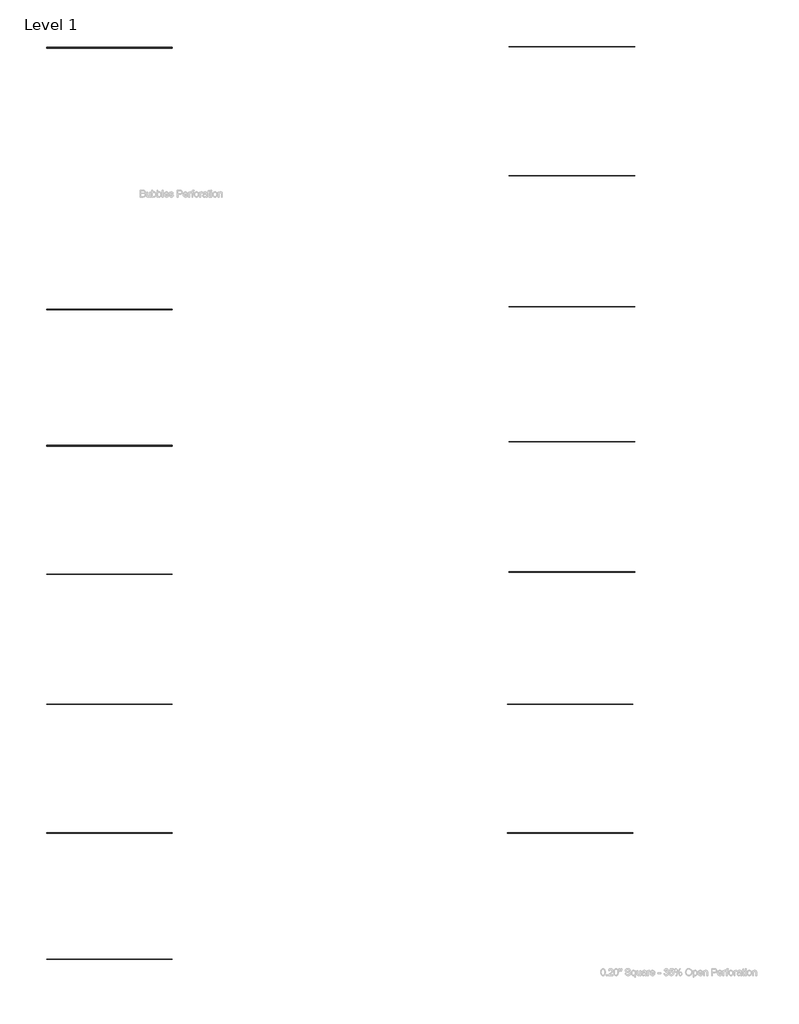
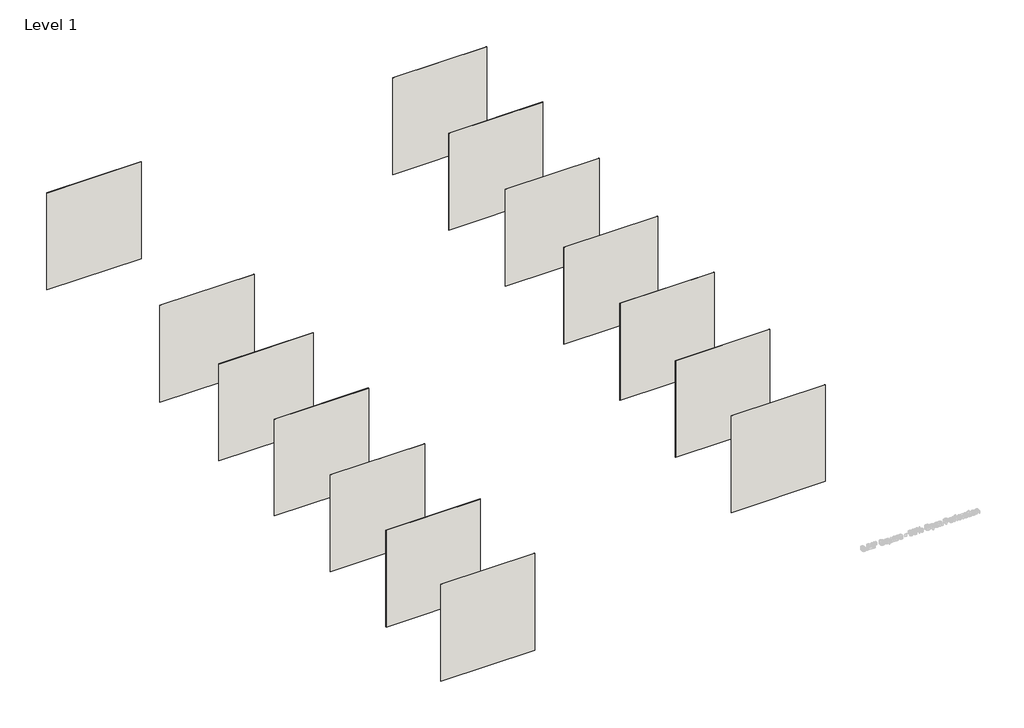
# One storey, part 1 of 3: 14 walls.
"""IFC4 building model written with IfcOpenShell, lengths in millimetres."""

from ifc_helpers import new_model, si_unit, frame, origin, place, context, project, spatial, polyline, outline, extrude, element, save

model = new_model("IFC4")

# Units and contexts
model_context = context("Model", 3, world=origin())
ifc_project = project(units=[si_unit("LENGTHUNIT", "METRE", prefix="MILLI")], contexts=[model_context])

# Site, building, storey
site = spatial("IfcSite", under=ifc_project)
building = spatial("IfcBuilding", under=site)
storey = spatial("IfcBuildingStorey", under=building, Name="Level 1", Elevation=0.0)

# Walls
placement = place(None, origin())
element("IfcWall", 1, ObjectType="Wall - System - Aluminum - Amico Architectural - Expanded Mesh - Apex01", at=placement, inside=storey, context=model_context, shape_type="SweptSolid", body=[
    extrude(outline(polyline([(-31609.2024115, 14675.0402168), (-37222.6024115, 14675.0402168), (-37222.6024115, 14707.9840168), (-31609.2024115, 14707.9840168), (-31609.2024115, 14675.0402168)])), frame((0.0, 0.0, 76.2), z_axis=(0.0, 0.0, 1.0), x_axis=(1.0, 0.0, 0.0)), (0.0, 0.0, 1.0), 6096.0),
])
element("IfcWall", 2, ObjectType="Wall - System - Steel - Amico Architectural - Perforated Stock Metal - 3/4\" Circle - 1\" Staggered", at=placement, inside=storey, context=model_context, shape_type="SweptSolid", body=[
    extrude(outline(polyline([(-31609.2024115, 3002.7496168), (-37222.6024115, 3002.7496168), (-37222.6024115, 3009.0996168), (-31609.2024115, 3009.0996168), (-31609.2024115, 3002.7496168)])), frame((0.0, 0.0, 76.2), z_axis=(0.0, 0.0, 1.0), x_axis=(1.0, 0.0, 0.0)), (0.0, 0.0, 1.0), 6096.0),
])
element("IfcWall", 3, ObjectType="Wall - System - Aluminum - Amico Architectural - Expanded Mesh - Apex02", at=placement, inside=storey, context=model_context, shape_type="SweptSolid", body=[
    extrude(outline(polyline([(-31609.2024115, -3089.0847832), (-37222.6024115, -3089.0847832), (-37222.6024115, -3056.1409832), (-31609.2024115, -3056.1409832), (-31609.2024115, -3089.0847832)])), frame((0.0, 0.0, 76.2), z_axis=(0.0, 0.0, 1.0), x_axis=(1.0, 0.0, 0.0)), (0.0, 0.0, 1.0), 6096.0),
])
element("IfcWall", 4, ObjectType="Wall - System - Aluminum - Amico Architectural - Expanded Mesh - Cresent", at=placement, inside=storey, context=model_context, shape_type="SweptSolid", body=[
    extrude(outline(polyline([(-31609.2024115, -8817.7753832), (-37222.6024115, -8817.7753832), (-37222.6024115, -8808.2503832), (-31609.2024115, -8808.2503832), (-31609.2024115, -8817.7753832)])), frame((0.0, 0.0, 76.2), z_axis=(0.0, 0.0, 1.0), x_axis=(1.0, 0.0, 0.0)), (0.0, 0.0, 1.0), 6096.0),
])
element("IfcWall", 5, ObjectType="Wall - System - Steel - Amico Architectural - Perforated Stock Metal - 3/16\" Circle - 5/16\" Staggered", at=placement, inside=storey, context=model_context, shape_type="SweptSolid", body=[
    extrude(outline(polyline([(-31609.2024115, -14607.3878832), (-37222.6024115, -14607.3878832), (-37222.6024115, -14601.0378832), (-31609.2024115, -14601.0378832), (-31609.2024115, -14607.3878832)])), frame((0.0, 0.0, 76.2), z_axis=(0.0, 0.0, 1.0), x_axis=(1.0, 0.0, 0.0)), (0.0, 0.0, 1.0), 6096.0),
])
element("IfcWall", 6, ObjectType="Wall - System - Aluminum - Amico Architectural - Expanded Mesh - Apex03", at=placement, inside=storey, context=model_context, shape_type="SweptSolid", body=[
    extrude(outline(polyline([(-31609.2024115, -20367.9619578), (-37222.6024115, -20367.9619578), (-37222.6024115, -20340.9744578), (-31609.2024115, -20340.9744578), (-31609.2024115, -20367.9619578)])), frame((0.0, 0.0, 76.2), z_axis=(0.0, 0.0, 1.0), x_axis=(1.0, 0.0, 0.0)), (0.0, 0.0, 1.0), 6096.0),
])
element("IfcWall", 7, ObjectType="Wall - System - Aluminum - Amico Architectural - Expanded Mesh - Pisa", at=placement, inside=storey, context=model_context, shape_type="SweptSolid", body=[
    extrude(outline(polyline([(-31609.2024115, -25998.0307078), (-37222.6024115, -25998.0307078), (-37222.6024115, -25988.5057078), (-31609.2024115, -25988.5057078), (-31609.2024115, -25998.0307078)])), frame((0.0, 0.0, 76.2), z_axis=(0.0, 0.0, 1.0), x_axis=(1.0, 0.0, 0.0)), (0.0, 0.0, 1.0), 6096.0),
])
element("IfcWall", 8, ObjectType="Wall - System - Steel - Amico Architectural - Perforated Stock Metal - 9/16\" Circle - 11/16\" Staggered", at=placement, inside=storey, context=model_context, shape_type="SweptSolid", body=[
    extrude(outline(polyline([(-10948.3448155, 14738.3306691), (-16561.7448155, 14738.3306691), (-16561.7448155, 14744.6806691), (-10948.3448155, 14744.6806691), (-10948.3448155, 14738.3306691)])), frame((0.0, 0.0, 76.2), z_axis=(0.0, 0.0, 1.0), x_axis=(1.0, 0.0, 0.0)), (0.0, 0.0, 1.0), 6096.0),
])
element("IfcWall", 9, ObjectType="Wall - System - Aluminum - Amico Architectural - Expanded Mesh - Apex04", at=placement, inside=storey, context=model_context, shape_type="SweptSolid", body=[
    extrude(outline(polyline([(-10948.3448155, 8969.5906168), (-16561.7448155, 8969.5906168), (-16561.7448155, 8986.6086168), (-10948.3448155, 8986.6086168), (-10948.3448155, 8969.5906168)])), frame((0.0, 0.0, 76.2), z_axis=(0.0, 0.0, 1.0), x_axis=(1.0, 0.0, 0.0)), (0.0, 0.0, 1.0), 6096.0),
])
element("IfcWall", 10, ObjectType="Wall - System - Aluminum - Amico Architectural - Expanded Mesh - Sunshade", at=placement, inside=storey, context=model_context, shape_type="SweptSolid", body=[
    extrude(outline(polyline([(-10948.3448155, 3128.9558668), (-16561.7448155, 3128.9558668), (-16561.7448155, 3136.8933668), (-10948.3448155, 3136.8933668), (-10948.3448155, 3128.9558668)])), frame((0.0, 0.0, 76.2), z_axis=(0.0, 0.0, 1.0), x_axis=(1.0, 0.0, 0.0)), (0.0, 0.0, 1.0), 6096.0),
])
element("IfcWall", 11, ObjectType="Wall - System - Steel - Amico Architectural - Perforated Stock Metal - 3019 - 1/4\" Circle - 3/8\" Staggered", at=placement, inside=storey, context=model_context, shape_type="SweptSolid", body=[
    extrude(outline(polyline([(-10948.3448155, -2898.3273763), (-16561.7448155, -2898.3273763), (-16561.7448155, -2891.9773763), (-10948.3448155, -2891.9773763), (-10948.3448155, -2898.3273763)])), frame((0.0, 0.0, 76.2), z_axis=(0.0, 0.0, 1.0), x_axis=(1.0, 0.0, 0.0)), (0.0, 0.0, 1.0), 6096.0),
])
element("IfcWall", 12, ObjectType="Wall - System - Aluminum - Amico Architectural - Expanded Mesh - Bilbao", at=placement, inside=storey, context=model_context, shape_type="SweptSolid", body=[
    extrude(outline(polyline([(-10948.3448155, -8720.0073763), (-16561.7448155, -8720.0073763), (-16561.7448155, -8703.4973763), (-10948.3448155, -8703.4973763), (-10948.3448155, -8720.0073763)])), frame((0.0, 0.0, 76.2), z_axis=(0.0, 0.0, 1.0), x_axis=(1.0, 0.0, 0.0)), (0.0, 0.0, 1.0), 6096.0),
])
element("IfcWall", 13, ObjectType="Wall - System - Aluminum - Amico Architectural - Expanded Mesh - Venetian", at=placement, inside=storey, context=model_context, shape_type="SweptSolid", body=[
    extrude(outline(polyline([(-11035.2024115, -14608.4038832), (-16648.6024115, -14608.4038832), (-16648.6024115, -14600.0218832), (-11035.2024115, -14600.0218832), (-11035.2024115, -14608.4038832)])), frame((0.0, 0.0, 76.2), z_axis=(0.0, 0.0, 1.0), x_axis=(1.0, 0.0, 0.0)), (0.0, 0.0, 1.0), 6096.0),
])
element("IfcWall", 14, ObjectType="Wall - System - Steel - Amico Architectural - Perforated Stock Metal - 3196A - 1/2\" Circle - 11/16\" Staggered", at=placement, inside=storey, context=model_context, shape_type="SweptSolid", body=[
    extrude(outline(polyline([(-11035.2024115, -20357.6432078), (-16648.6024115, -20357.6432078), (-16648.6024115, -20351.2932078), (-11035.2024115, -20351.2932078), (-11035.2024115, -20357.6432078)])), frame((0.0, 0.0, 76.2), z_axis=(0.0, 0.0, 1.0), x_axis=(1.0, 0.0, 0.0)), (0.0, 0.0, 1.0), 6096.0),
])

save(model, "model.ifc")
